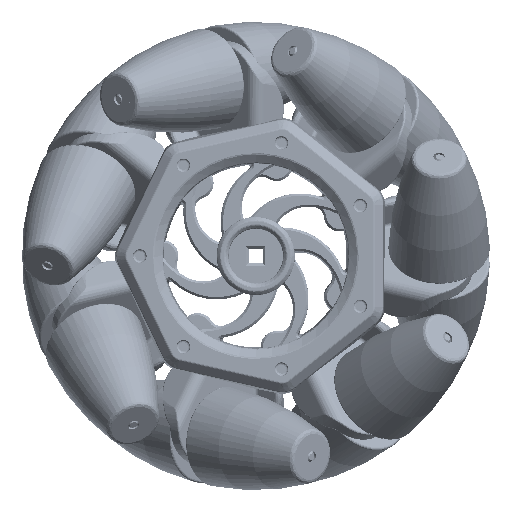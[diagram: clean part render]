
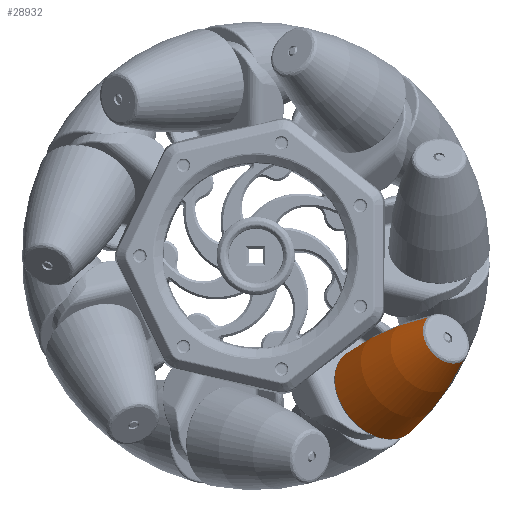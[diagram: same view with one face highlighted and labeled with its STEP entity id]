
A CAD part, front view. The second image highlights one B-rep face of the part: STEP entity #28932.
In plain terms, the highlighted toroidal (fillet/blend) face has major radius 81.309 mm and minor radius 92.509 mm.
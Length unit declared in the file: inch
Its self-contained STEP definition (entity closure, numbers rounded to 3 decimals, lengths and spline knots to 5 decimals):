
#7257 = CARTESIAN_POINT ( 'NONE',  ( 0., 0., 0. ) ) ;
#7259 = DIRECTION ( 'NONE',  ( 0., 1., 0. ) ) ;
#7276 = DIRECTION ( 'NONE',  ( 0., 0., 1. ) ) ;
#20434 = CARTESIAN_POINT ( 'NONE',  ( 0., 1.19401, 0. ) ) ;
#20441 = DIRECTION ( 'NONE',  ( 0., -1., 0. ) ) ;
#20442 = DIRECTION ( 'NONE',  ( 1., 0., 0. ) ) ;
#20565 = CARTESIAN_POINT ( 'NONE',  ( 0., 0.11479, 0. ) ) ;
#20634 = CARTESIAN_POINT ( 'NONE',  ( 0., 0., 3.20115 ) ) ;
#20635 = DIRECTION ( 'NONE',  ( 1., 0., 0. ) ) ;
#20636 = DIRECTION ( 'NONE',  ( 0., 0., -1. ) ) ;
#20641 = DIRECTION ( 'NONE',  ( 0., 1., 0. ) ) ;
#20642 = DIRECTION ( 'NONE',  ( -1., 0., 0. ) ) ;
#20654 = CARTESIAN_POINT ( 'NONE',  ( 0., 0., -3.20115 ) ) ;
#20660 = CARTESIAN_POINT ( 'NONE',  ( 0., 0.11479, 0. ) ) ;
#20661 = DIRECTION ( 'NONE',  ( -1., 0., 0. ) ) ;
#20662 = DIRECTION ( 'NONE',  ( 0., 0., 1. ) ) ;
#20667 = DIRECTION ( 'NONE',  ( 0., 1., 0. ) ) ;
#20668 = DIRECTION ( 'NONE',  ( -1., 0., 0. ) ) ;
#20812 = CARTESIAN_POINT ( 'NONE',  ( 0., 1.19401, 0. ) ) ;
#20821 = DIRECTION ( 'NONE',  ( 0., -1., 0. ) ) ;
#20822 = DIRECTION ( 'NONE',  ( 1., 0., 0. ) ) ;
#28932 = ADVANCED_FACE ( 'NONE', ( #124976 ), #124967, .T. ) ;
#51558 = ORIENTED_EDGE ( 'NONE', *, *, #122612, .F. ) ;
#51560 = ORIENTED_EDGE ( 'NONE', *, *, #122614, .T. ) ;
#51563 = ORIENTED_EDGE ( 'NONE', *, *, #122623, .T. ) ;
#51565 = ORIENTED_EDGE ( 'NONE', *, *, #122621, .T. ) ;
#51567 = ORIENTED_EDGE ( 'NONE', *, *, #122596, .T. ) ;
#51569 = ORIENTED_EDGE ( 'NONE', *, *, #122653, .T. ) ;
#72831 = AXIS2_PLACEMENT_3D ( 'NONE', #20434, #20441, #20442 ) ;
#72863 = AXIS2_PLACEMENT_3D ( 'NONE', #20634, #20635, #20636 ) ;
#72865 = AXIS2_PLACEMENT_3D ( 'NONE', #20565, #20641, #20642 ) ;
#72874 = AXIS2_PLACEMENT_3D ( 'NONE', #20654, #20661, #20662 ) ;
#72883 = AXIS2_PLACEMENT_3D ( 'NONE', #20660, #20667, #20668 ) ;
#72924 = AXIS2_PLACEMENT_3D ( 'NONE', #20812, #20821, #20822 ) ;
#99843 = VERTEX_POINT ( 'NONE', #116600 ) ;
#99845 = VERTEX_POINT ( 'NONE', #116602 ) ;
#99862 = VERTEX_POINT ( 'NONE', #116622 ) ;
#99864 = VERTEX_POINT ( 'NONE', #116624 ) ;
#99866 = VERTEX_POINT ( 'NONE', #116626 ) ;
#99868 = VERTEX_POINT ( 'NONE', #116628 ) ;
#116600 = CARTESIAN_POINT ( 'NONE',  ( -0.23965, 1.19401, 0.00233 ) ) ;
#116602 = CARTESIAN_POINT ( 'NONE',  ( 0., 1.19401, 0.23966 ) ) ;
#116622 = CARTESIAN_POINT ( 'NONE',  ( 0., 0.11479, -0.43914 ) ) ;
#116624 = CARTESIAN_POINT ( 'NONE',  ( -0.43911, 0.11479, -0.00464 ) ) ;
#116626 = CARTESIAN_POINT ( 'NONE',  ( 0., 0.11479, 0.43914 ) ) ;
#116628 = CARTESIAN_POINT ( 'NONE',  ( 0., 1.19401, -0.23966 ) ) ;
#122596 = EDGE_CURVE ( 'NONE', #99845, #99843, #130359, .T. ) ;
#122612 = EDGE_CURVE ( 'NONE', #99862, #99868, #130369, .T. ) ;
#122614 = EDGE_CURVE ( 'NONE', #99862, #99864, #130371, .T. ) ;
#122621 = EDGE_CURVE ( 'NONE', #99866, #99845, #130380, .T. ) ;
#122623 = EDGE_CURVE ( 'NONE', #99864, #99866, #130384, .T. ) ;
#122653 = EDGE_CURVE ( 'NONE', #99843, #99868, #130411, .T. ) ;
#123099 = AXIS2_PLACEMENT_3D ( 'NONE', #7257, #7259, #7276 ) ;
#123861 = EDGE_LOOP ( 'NONE', ( #51558, #51560, #51563, #51565, #51567, #51569 ) ) ;
#124967 = TOROIDAL_SURFACE ( 'NONE', #123099, -3.20115, 3.64209 ) ;
#124976 = FACE_OUTER_BOUND ( 'NONE', #123861, .T. ) ;
#130359 = CIRCLE ( 'NONE', #72831, 0.23966 ) ;
#130369 = CIRCLE ( 'NONE', #72863, 3.64209 ) ;
#130371 = CIRCLE ( 'NONE', #72865, 0.43914 ) ;
#130380 = CIRCLE ( 'NONE', #72874, 3.64209 ) ;
#130384 = CIRCLE ( 'NONE', #72883, 0.43914 ) ;
#130411 = CIRCLE ( 'NONE', #72924, 0.23966 ) ;
